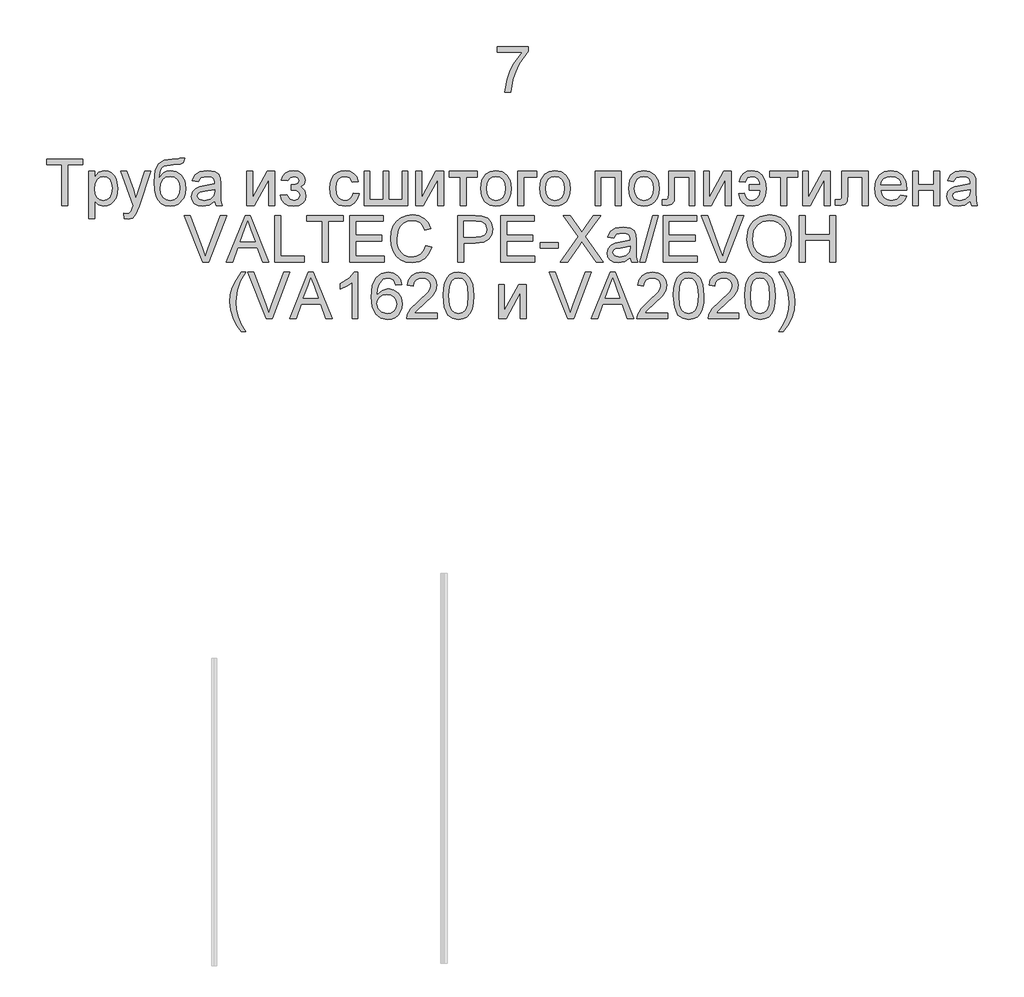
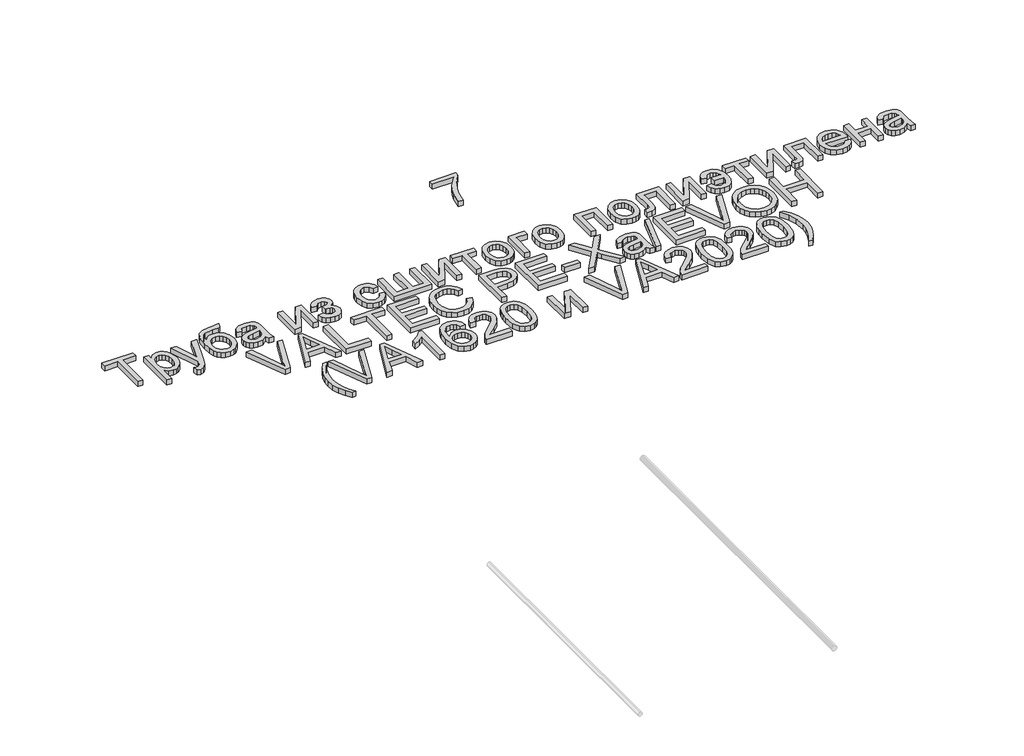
# One storey, part 2 of 2: 1 proxy.
"""IFC4 building model written with IfcOpenShell, lengths in millimetres."""

from ifc_helpers import new_model, si_unit, origin, origin_with_axes, place, context, project, spatial, polyline, outline, extrude, element, save

model = new_model("IFC4")

# Units and contexts
model_context = context("Model", 3, world=origin())
ifc_project = project(units=[si_unit("LENGTHUNIT", "METRE", prefix="MILLI")], contexts=[model_context])

# Site, building, storey
site = spatial("IfcSite", under=ifc_project)
building = spatial("IfcBuilding", under=site)
storey = spatial("IfcBuildingStorey", under=building, Name="Этаж 01", Elevation=0.0)

# Proxy
placement = place(None, origin())
element("IfcBuildingElementProxy", 1, Name="-", ObjectType="-", at=placement, inside=storey, context=model_context, shape_type="SweptSolid", body=[
    extrude(outline(polyline([(860.7139769, 3019.4915271), (860.7139769, 3038.3270853), (959.6006572, 3038.3270853), (959.6006572, 3023.0967707), (931.5496551, 2982.5745689), (919.2394038, 2957.1125363), (910.0837407, 2930.9423309), (903.0939828, 2889.9970648), (884.2584246, 2889.9970648), (891.7448232, 2932.4874353), (900.459028, 2956.9469894), (912.2910326, 2980.5144297), (940.7650991, 3019.4915271), (860.7139769, 3019.4915271)])), origin_with_axes(), (0.0, 0.0, 1.0), 20.0),
    extrude(outline(polyline([(-547.243995, 2524.0726113), (-547.243995, 2655.9215184), (-596.6873352, 2655.9215184), (-596.6873352, 2674.7570765), (-478.9650967, 2674.7570765), (-478.9650967, 2655.9215184), (-528.4084369, 2655.9215184), (-528.4084369, 2524.0726113), (-547.243995, 2524.0726113)])), origin_with_axes(), (0.0, 0.0, 1.0), 20.0),
    extrude(outline(polyline([(-460.1295386, 2481.6926054), (-460.1295386, 2634.7315154), (-441.2939804, 2634.7315154), (-441.2939804, 2616.2638393), (-428.2709578, 2631.88043), (-410.6861984, 2637.0859602), (-397.9482843, 2635.2649443), (-386.8106569, 2629.8018967), (-377.7423657, 2621.0279111), (-371.2124603, 2609.2740814), (-365.9517478, 2580.248192), (-367.4370714, 2564.1395591), (-371.893042, 2549.7323805), (-379.1771055, 2537.7578215), (-389.1467076, 2528.9470477), (-400.7579831, 2523.5253868), (-412.9670668, 2521.7181665), (-429.3562097, 2526.5558148), (-441.2939804, 2538.7878911), (-441.2939804, 2481.6926054), (-460.1295386, 2481.6926054)]), holes=[polyline([(-441.2939804, 2578.5191466), (-439.2568339, 2561.633363), (-433.1453942, 2549.824351), (-424.1276868, 2542.8713812), (-413.371737, 2540.5537247), (-402.4410432, 2542.9541547), (-393.1934095, 2550.1554447), (-386.8888318, 2562.3967181), (-384.787306, 2579.9170982), (-386.8382481, 2596.7109112), (-392.9910744, 2608.6854702), (-401.9949863, 2615.8591691), (-412.5991848, 2618.2504021), (-423.24477, 2615.7074178), (-432.5935712, 2608.0784649), (-439.1188781, 2595.6026667), (-441.2939804, 2578.5191466)])]), origin_with_axes(), (0.0, 0.0, 1.0), 20.0),
    extrude(outline(polyline([(-344.7617449, 2481.6926054), (-347.1161896, 2499.8291878), (-337.5512578, 2498.1737188), (-328.6117253, 2500.2522521), (-323.1302836, 2506.0463935), (-317.9799356, 2519.9155447), (-316.5084076, 2524.4772815), (-356.5339687, 2634.7315154), (-336.668341, 2634.7315154), (-315.4415499, 2573.2952222), (-308.0471218, 2548.720705), (-300.6526937, 2570.4257427), (-278.8372913, 2634.7315154), (-259.1188164, 2634.7315154), (-297.6360613, 2521.4238609), (-307.6424516, 2496.8493436), (-318.5685468, 2483.5688036), (-333.2470384, 2479.3381607), (-344.7617449, 2481.6926054)])), origin_with_axes(), (0.0, 0.0, 1.0), 20.0),
    extrude(outline(polyline([(-165.8239424, 2677.1115213), (-149.342829, 2677.1115213), (-154.1988714, 2662.4146356), (-163.8005914, 2657.0987407), (-186.8667925, 2655.9215184), (-217.934427, 2651.5805108), (-225.0621407, 2645.9335222), (-229.8538037, 2637.6745714), (-233.8821115, 2613.0632659), (-217.566545, 2631.0894837), (-207.6475267, 2635.5868411), (-196.542089, 2637.0859602), (-176.9431757, 2633.273783), (-161.0414765, 2621.8372515), (-150.5016573, 2603.8984057), (-146.9883843, 2580.5792857), (-148.7312252, 2562.5990532), (-153.9597481, 2548.168882), (-170.4960438, 2528.6159539), (-181.790021, 2523.4426134), (-196.542089, 2521.7181665), (-213.5428357, 2523.9392541), (-226.2853483, 2530.6025167), (-235.6617407, 2540.7284686), (-242.5641266, 2553.337624), (-246.8131637, 2572.3249335), (-248.2295093, 2601.5853477), (-244.6564555, 2637.7251552), (-233.9372938, 2659.7658852), (-215.80531, 2671.0092787), (-189.9937895, 2674.7570765), (-169.0245158, 2675.1801408), (-165.8239424, 2677.1115213)]), holes=[polyline([(-165.8239424, 2581.1678969), (-167.8656875, 2595.9889428), (-173.9909227, 2607.8577357), (-183.8317661, 2615.6522355), (-197.0203356, 2618.2504021), (-210.7699252, 2615.5050827), (-220.9694535, 2607.2691245), (-227.2878268, 2594.4438384), (-229.3939512, 2577.9305354), (-227.0670976, 2561.9230701), (-220.0865367, 2550.1738388), (-209.6938703, 2542.9587532), (-197.1307002, 2540.5537247), (-184.5031507, 2543.3358323), (-174.5059575, 2551.682155), (-167.9944462, 2564.6178057), (-165.8239424, 2581.1678969)])]), origin_with_axes(), (0.0, 0.0, 1.0), 20.0),
    extrude(outline(polyline([(-52.8105935, 2538.1992799), (-71.0759346, 2525.4337747), (-91.254262, 2521.7181665), (-106.9950129, 2523.9530496), (-118.6062883, 2530.657699), (-125.7661917, 2540.8388332), (-128.1528261, 2553.5031709), (-124.5475826, 2568.4023917), (-115.0746212, 2579.2181224), (-101.8860517, 2585.3985399), (-85.5888793, 2588.2312312), (-52.9209581, 2594.7059544), (-52.8105935, 2598.8998091), (-54.1073775, 2607.3059127), (-57.9977296, 2612.8057485), (-66.6981388, 2616.8892387), (-78.8198506, 2618.2504021), (-97.8761379, 2614.6267644), (-106.9628232, 2601.7692887), (-125.7983813, 2604.1237334), (-117.6497952, 2622.5178332), (-101.2422582, 2633.2967757), (-76.3918294, 2637.0859602), (-53.5647516, 2633.7382341), (-40.6704877, 2625.3321305), (-34.8947403, 2612.5482311), (-33.9750354, 2596.0671177), (-33.9750354, 2572.6330347), (-33.0185422, 2539.9099312), (-29.2661458, 2524.0726113), (-48.101704, 2524.0726113), (-52.8105935, 2538.1992799)]), holes=[polyline([(-52.8105935, 2575.8703962), (-83.1976463, 2570.0946489), (-99.4028482, 2567.0412283), (-106.742094, 2562.0748214), (-109.317268, 2554.8275461), (-103.7070675, 2544.6372148), (-87.2443483, 2540.5537247), (-68.1880609, 2545.0602791), (-55.9008023, 2555.9679803), (-52.9209581, 2570.5361073), (-52.8105935, 2575.8703962)])]), origin_with_axes(), (0.0, 0.0, 1.0), 20.0),
    extrude(outline(polyline([(50.7849763, 2634.7315154), (69.6205345, 2634.7315154), (69.6205345, 2550.3393857), (115.9000895, 2634.7315154), (140.2538776, 2634.7315154), (140.2538776, 2524.0726113), (121.4183194, 2524.0726113), (121.4183194, 2607.9497062), (75.43307, 2524.0726113), (50.7849763, 2524.0726113), (50.7849763, 2634.7315154)])), origin_with_axes(), (0.0, 0.0, 1.0), 20.0),
    extrude(outline(polyline([(194.4061073, 2573.5159514), (194.4061073, 2592.3515096), (209.2685399, 2593.0872736), (216.7733326, 2597.0052168), (220.3049997, 2605.1905912), (215.5777161, 2614.7003408), (203.3824279, 2618.2504021), (190.7824696, 2614.7187349), (182.6338834, 2604.1237334), (161.4438805, 2606.4781782), (167.063278, 2619.8690828), (175.6073373, 2629.4340147), (187.0760585, 2635.1729738), (201.4694416, 2637.0859602), (217.214791, 2634.7545081), (229.1341676, 2627.7601516), (236.6389603, 2617.5284336), (239.1405579, 2605.4848968), (235.5812996, 2593.7862494), (224.9035247, 2584.7363523), (237.3563302, 2573.0009166), (241.4950026, 2556.1151331), (238.8692449, 2542.2505804), (230.9919717, 2531.2647043), (218.3966119, 2524.104801), (201.6165944, 2521.7181665), (185.2044589, 2523.9254585), (172.6458872, 2530.5473344), (163.9408795, 2541.5837943), (159.0894357, 2557.0348381), (180.2794386, 2559.3892828), (188.7775127, 2545.4833434), (203.4192161, 2540.5537247), (217.1780028, 2545.2810083), (222.6594445, 2557.3659319), (219.256536, 2567.2619575), (212.0092607, 2572.5594583), (198.0849272, 2573.626316), (194.4061073, 2573.5159514)])), origin_with_axes(), (0.0, 0.0, 1.0), 20.0),
    extrude(outline(polyline([(394.5339126, 2564.0981724), (413.3694708, 2561.7437276), (408.1179553, 2544.9913012), (398.2495208, 2532.3315621), (384.6930693, 2524.3715154), (368.3775028, 2521.7181665), (348.3417296, 2525.4199791), (332.6745551, 2536.5254168), (322.5623988, 2554.5470361), (319.19168, 2578.9973932), (320.6310183, 2595.7590166), (324.9490332, 2610.2857569), (332.2147026, 2622.016594), (342.4970044, 2630.3905079), (354.7980586, 2635.4120971), (368.1199854, 2637.0859602), (384.0354802, 2634.7866977), (396.7595987, 2627.8889103), (405.8876707, 2616.76048), (411.015026, 2601.7692887), (392.1794679, 2599.4148439), (383.4422705, 2613.5231184), (368.2671382, 2618.2504021), (356.0948427, 2615.9235484), (346.4333418, 2608.9429876), (340.1287641, 2596.9316404), (338.0272382, 2579.512428), (340.0827788, 2561.8586907), (346.2494008, 2549.8059569), (355.7361577, 2542.8667827), (367.7521034, 2540.5537247), (377.5055748, 2541.9976615), (385.5024096, 2546.329472), (391.3195437, 2553.6595208), (394.5339126, 2564.0981724)])), origin_with_axes(), (0.0, 0.0, 1.0), 20.0),
    extrude(outline(polyline([(429.8505842, 2634.7315154), (448.6861423, 2634.7315154), (448.6861423, 2542.9081694), (491.0661482, 2542.9081694), (491.0661482, 2634.7315154), (509.9017063, 2634.7315154), (509.9017063, 2542.9081694), (552.2817122, 2542.9081694), (552.2817122, 2634.7315154), (571.1172703, 2634.7315154), (571.1172703, 2524.0726113), (429.8505842, 2524.0726113), (429.8505842, 2634.7315154)])), origin_with_axes(), (0.0, 0.0, 1.0), 20.0),
    extrude(outline(polyline([(597.0161628, 2634.7315154), (615.8517209, 2634.7315154), (615.8517209, 2550.3393857), (662.1312759, 2634.7315154), (686.485064, 2634.7315154), (686.485064, 2524.0726113), (667.6495059, 2524.0726113), (667.6495059, 2607.9497062), (621.6642565, 2524.0726113), (597.0161628, 2524.0726113), (597.0161628, 2634.7315154)])), origin_with_axes(), (0.0, 0.0, 1.0), 20.0),
    extrude(outline(polyline([(705.3206222, 2634.7315154), (794.7895234, 2634.7315154), (794.7895234, 2615.8959573), (759.4728518, 2615.8959573), (759.4728518, 2524.0726113), (740.6372937, 2524.0726113), (740.6372937, 2615.8959573), (705.3206222, 2615.8959573), (705.3206222, 2634.7315154)])), origin_with_axes(), (0.0, 0.0, 1.0), 20.0),
    extrude(outline(polyline([(806.5617472, 2579.4020634), (810.6360403, 2606.0827051), (822.8589196, 2624.8354898), (837.9604755, 2634.0233426), (856.0418756, 2637.0859602), (875.8293284, 2633.3565565), (891.6344586, 2622.1683453), (901.9949353, 2604.4042435), (905.4484275, 2580.9471677), (903.9217173, 2561.9184715), (899.3415864, 2547.433118), (891.8413922, 2536.5851976), (881.5544919, 2528.4688011), (869.3362112, 2523.4058252), (856.0418756, 2521.7181665), (836.0152995, 2525.4337747), (820.2285633, 2536.5805991), (809.9784513, 2554.7171815), (806.5617472, 2579.4020634)]), holes=[polyline([(825.3973054, 2579.4388516), (827.5770062, 2562.3921196), (834.1161087, 2550.2474152), (843.956952, 2542.9771473), (856.0418756, 2540.5537247), (868.0716168, 2542.9909429), (877.8940661, 2550.3025975), (884.4331686, 2562.6082503), (886.6128694, 2580.0274628), (884.419373, 2596.577554), (877.8388838, 2608.5567115), (868.0026389, 2615.8269794), (856.0418756, 2618.2504021), (843.956952, 2615.8361765), (834.1161087, 2608.5934997), (827.5770062, 2596.4763865), (825.3973054, 2579.4388516)])]), origin_with_axes(), (0.0, 0.0, 1.0), 20.0),
    extrude(outline(polyline([(926.6384305, 2634.7315154), (987.8539945, 2634.7315154), (987.8539945, 2615.8959573), (945.4739886, 2615.8959573), (945.4739886, 2524.0726113), (926.6384305, 2524.0726113), (926.6384305, 2634.7315154)])), origin_with_axes(), (0.0, 0.0, 1.0), 20.0),
    extrude(outline(polyline([(997.2717735, 2579.4020634), (1001.3460666, 2606.0827051), (1013.5689459, 2624.8354898), (1028.6705018, 2634.0233426), (1046.7519019, 2637.0859602), (1066.5393547, 2633.3565565), (1082.3444849, 2622.1683453), (1092.7049616, 2604.4042435), (1096.1584538, 2580.9471677), (1094.6317436, 2561.9184715), (1090.0516127, 2547.433118), (1082.5514185, 2536.5851976), (1072.2645182, 2528.4688011), (1060.0462375, 2523.4058252), (1046.7519019, 2521.7181665), (1026.7253258, 2525.4337747), (1010.9385896, 2536.5805991), (1000.6884776, 2554.7171815), (997.2717735, 2579.4020634)]), holes=[polyline([(1016.1073317, 2579.4388516), (1018.2870325, 2562.3921196), (1024.826135, 2550.2474152), (1034.6669783, 2542.9771473), (1046.7519019, 2540.5537247), (1058.7816431, 2542.9909429), (1068.6040924, 2550.3025975), (1075.1431949, 2562.6082503), (1077.3228957, 2580.0274628), (1075.1293993, 2596.577554), (1068.5489101, 2608.5567115), (1058.7126652, 2615.8269794), (1046.7519019, 2618.2504021), (1034.6669783, 2615.8361765), (1024.826135, 2608.5934997), (1018.2870325, 2596.4763865), (1016.1073317, 2579.4388516)])]), origin_with_axes(), (0.0, 0.0, 1.0), 20.0),
    extrude(outline(polyline([(1176.209576, 2634.7315154), (1260.9695877, 2634.7315154), (1260.9695877, 2524.0726113), (1242.1340295, 2524.0726113), (1242.1340295, 2615.8959573), (1195.0451341, 2615.8959573), (1195.0451341, 2524.0726113), (1176.209576, 2524.0726113), (1176.209576, 2634.7315154)])), origin_with_axes(), (0.0, 0.0, 1.0), 20.0),
    extrude(outline(polyline([(1284.5140354, 2579.4020634), (1288.5883285, 2606.0827051), (1300.8112077, 2624.8354898), (1315.9127637, 2634.0233426), (1333.9941637, 2637.0859602), (1353.7816165, 2633.3565565), (1369.5867467, 2622.1683453), (1379.9472234, 2604.4042435), (1383.4007157, 2580.9471677), (1381.8740054, 2561.9184715), (1377.2938745, 2547.433118), (1369.7936804, 2536.5851976), (1359.5067801, 2528.4688011), (1347.2884993, 2523.4058252), (1333.9941637, 2521.7181665), (1313.9675876, 2525.4337747), (1298.1808515, 2536.5805991), (1287.9307394, 2554.7171815), (1284.5140354, 2579.4020634)]), holes=[polyline([(1303.3495935, 2579.4388516), (1305.5292943, 2562.3921196), (1312.0683968, 2550.2474152), (1321.9092402, 2542.9771473), (1333.9941637, 2540.5537247), (1346.023905, 2542.9909429), (1355.8463542, 2550.3025975), (1362.3854567, 2562.6082503), (1364.5651575, 2580.0274628), (1362.3716611, 2596.577554), (1355.7911719, 2608.5567115), (1345.9549271, 2615.8269794), (1333.9941637, 2618.2504021), (1321.9092402, 2615.8361765), (1312.0683968, 2608.5934997), (1305.5292943, 2596.4763865), (1303.3495935, 2579.4388516)])]), origin_with_axes(), (0.0, 0.0, 1.0), 20.0),
    extrude(outline(polyline([(1414.0084977, 2634.7315154), (1498.7685094, 2634.7315154), (1498.7685094, 2524.1829759), (1479.9329512, 2524.1829759), (1479.9329512, 2615.8959573), (1432.8440558, 2615.8959573), (1432.8440558, 2563.104891), (1431.5748629, 2538.7511029), (1424.6034991, 2528.4688011), (1408.1223857, 2524.0726113), (1392.8184947, 2525.0291045), (1392.8184947, 2542.9081694), (1401.2429924, 2542.9081694), (1409.7594606, 2544.0669977), (1413.1623691, 2547.7458177), (1414.0084977, 2564.1717488), (1414.0084977, 2634.7315154)])), origin_with_axes(), (0.0, 0.0, 1.0), 20.0),
    extrude(outline(polyline([(1527.0218466, 2634.7315154), (1545.8574047, 2634.7315154), (1545.8574047, 2550.3393857), (1592.1369597, 2634.7315154), (1616.4907478, 2634.7315154), (1616.4907478, 2524.0726113), (1597.6551897, 2524.0726113), (1597.6551897, 2607.9497062), (1551.6699403, 2524.0726113), (1527.0218466, 2524.0726113), (1527.0218466, 2634.7315154)])), origin_with_axes(), (0.0, 0.0, 1.0), 20.0),
    extrude(outline(polyline([(1675.351867, 2592.3515096), (1710.6685386, 2592.3515096), (1707.7668693, 2602.7855627), (1702.1520704, 2611.058309), (1694.1920237, 2616.4523788), (1684.2546113, 2618.2504021), (1668.9875085, 2613.5415125), (1661.2251984, 2599.4148439), (1642.3896403, 2601.7692887), (1646.7812316, 2615.9097529), (1655.3206924, 2627.2083286), (1667.5757614, 2634.6165523), (1683.1141771, 2637.0859602), (1702.3406099, 2633.2415934), (1717.0512912, 2621.7084928), (1726.3908953, 2603.4431517), (1729.5040967, 2579.4020634), (1726.9335213, 2555.4713396), (1718.0445726, 2536.6541755), (1703.5178323, 2524.7899812), (1684.0338821, 2521.7181665), (1667.3320395, 2524.472683), (1654.1618641, 2532.7362323), (1644.928026, 2545.497139), (1640.0351955, 2561.7437276), (1658.8707537, 2564.0981724), (1661.8459993, 2553.7974765), (1666.9825516, 2546.4398366), (1674.2804107, 2542.0252527), (1683.7395765, 2540.5537247), (1694.3805632, 2542.6138638), (1702.3911937, 2548.7942814), (1707.8082561, 2559.0949772), (1710.6685386, 2573.5159514), (1675.351867, 2573.5159514), (1675.351867, 2592.3515096)])), origin_with_axes(), (0.0, 0.0, 1.0), 20.0),
    extrude(outline(polyline([(1741.2763206, 2634.7315154), (1830.7452218, 2634.7315154), (1830.7452218, 2615.8959573), (1795.4285503, 2615.8959573), (1795.4285503, 2524.0726113), (1776.5929921, 2524.0726113), (1776.5929921, 2615.8959573), (1741.2763206, 2615.8959573), (1741.2763206, 2634.7315154)])), origin_with_axes(), (0.0, 0.0, 1.0), 20.0),
    extrude(outline(polyline([(1847.2263352, 2634.7315154), (1866.0618933, 2634.7315154), (1866.0618933, 2550.3393857), (1912.3414483, 2634.7315154), (1936.6952364, 2634.7315154), (1936.6952364, 2524.0726113), (1917.8596783, 2524.0726113), (1917.8596783, 2607.9497062), (1871.8744289, 2524.0726113), (1847.2263352, 2524.0726113), (1847.2263352, 2634.7315154)])), origin_with_axes(), (0.0, 0.0, 1.0), 20.0),
    extrude(outline(polyline([(1974.3663527, 2634.7315154), (2059.1263644, 2634.7315154), (2059.1263644, 2524.1829759), (2040.2908063, 2524.1829759), (2040.2908063, 2615.8959573), (1993.2019109, 2615.8959573), (1993.2019109, 2563.104891), (1991.932718, 2538.7511029), (1984.9613542, 2528.4688011), (1968.4802408, 2524.0726113), (1953.1763498, 2525.0291045), (1953.1763498, 2542.9081694), (1961.6008475, 2542.9081694), (1970.1173157, 2544.0669977), (1973.5202241, 2547.7458177), (1974.3663527, 2564.1717488), (1974.3663527, 2634.7315154)])), origin_with_axes(), (0.0, 0.0, 1.0), 20.0),
    extrude(outline(polyline([(2164.8556498, 2557.0348381), (2183.323326, 2554.6803933), (2176.6692604, 2540.7652568), (2166.0512663, 2530.3633934), (2151.708467, 2523.8794732), (2133.8799858, 2521.7181665), (2111.779475, 2525.4475702), (2094.7741297, 2536.6357814), (2083.9308079, 2554.5562331), (2080.3163673, 2578.4823584), (2083.9675961, 2603.2132255), (2094.9212825, 2621.7084928), (2111.6967015, 2633.2415934), (2132.813128, 2637.0859602), (2153.2719655, 2633.2507904), (2169.6197217, 2621.745281), (2180.3388833, 2603.2868019), (2183.9119372, 2578.592723), (2183.8015726, 2573.5159514), (2099.1519255, 2573.5159514), (2102.4122797, 2559.416874), (2109.9860502, 2549.0517988), (2120.916744, 2542.6782432), (2134.2478678, 2540.5537247), (2152.715544, 2544.490062), (2164.8556498, 2557.0348381)]), holes=[polyline([(2099.1519255, 2592.3515096), (2165.076379, 2592.3515096), (2162.5287962, 2602.3027176), (2157.5347981, 2609.4212342), (2146.5535206, 2616.0431101), (2132.7395516, 2618.2504021), (2120.0430243, 2616.489167), (2109.5445918, 2611.2054618), (2102.2467328, 2602.9695037), (2099.1519255, 2592.3515096)])]), origin_with_axes(), (0.0, 0.0, 1.0), 20.0),
    extrude(outline(polyline([(2202.7474953, 2634.7315154), (2221.5830535, 2634.7315154), (2221.5830535, 2592.3515096), (2271.0263936, 2592.3515096), (2271.0263936, 2634.7315154), (2289.8619518, 2634.7315154), (2289.8619518, 2524.0726113), (2271.0263936, 2524.0726113), (2271.0263936, 2573.5159514), (2221.5830535, 2573.5159514), (2221.5830535, 2524.0726113), (2202.7474953, 2524.0726113), (2202.7474953, 2634.7315154)])), origin_with_axes(), (0.0, 0.0, 1.0), 20.0),
    extrude(outline(polyline([(2388.7486321, 2538.1992799), (2370.483291, 2525.4337747), (2350.3049636, 2521.7181665), (2334.5642127, 2523.9530496), (2322.9529372, 2530.657699), (2315.7930339, 2540.8388332), (2313.4063995, 2553.5031709), (2317.011643, 2568.4023917), (2326.4846044, 2579.2181224), (2339.6731739, 2585.3985399), (2355.9703463, 2588.2312312), (2388.6382675, 2594.7059544), (2388.7486321, 2598.8998091), (2387.4518481, 2607.3059127), (2383.561496, 2612.8057485), (2374.8610868, 2616.8892387), (2362.739375, 2618.2504021), (2343.6830877, 2614.6267644), (2334.5964024, 2601.7692887), (2315.7608442, 2604.1237334), (2323.9094304, 2622.5178332), (2340.3169674, 2633.2967757), (2365.1673962, 2637.0859602), (2387.994474, 2633.7382341), (2400.8887379, 2625.3321305), (2406.6644853, 2612.5482311), (2407.5841902, 2596.0671177), (2407.5841902, 2572.6330347), (2408.5406834, 2539.9099312), (2412.2930798, 2524.0726113), (2393.4575216, 2524.0726113), (2388.7486321, 2538.1992799)]), holes=[polyline([(2388.7486321, 2575.8703962), (2358.3615793, 2570.0946489), (2342.1563774, 2567.0412283), (2334.8171316, 2562.0748214), (2332.2419576, 2554.8275461), (2337.8521581, 2544.6372148), (2354.3148773, 2540.5537247), (2373.3711647, 2545.0602791), (2385.6584233, 2555.9679803), (2388.6382675, 2570.5361073), (2388.7486321, 2575.8703962)])]), origin_with_axes(), (0.0, 0.0, 1.0), 20.0),
    extrude(outline(polyline([(-15.0291126, 2341.1103845), (45.1195936, 2491.7948497), (61.1592486, 2491.7948497), (121.3079548, 2341.1103845), (101.4055389, 2341.1103845), (84.1518733, 2388.1992799), (22.0901807, 2388.1992799), (4.8733033, 2341.1103845), (-15.0291126, 2341.1103845)]), holes=[polyline([(29.0063622, 2407.0348381), (77.27248, 2407.0348381), (63.6976344, 2444.080555), (53.1394211, 2472.9592916), (43.7584302, 2447.3179165), (29.0063622, 2407.0348381)])]), origin_with_axes(), (0.0, 0.0, 1.0), 20.0),
    extrude(outline(polyline([(-91.8796614, 2341.1103845), (-151.8444266, 2491.7948497), (-131.6844933, 2491.7948497), (-91.5485676, 2383.232873), (-83.4183755, 2358.7687203), (-75.398548, 2383.232873), (-35.1522577, 2491.7948497), (-14.9923244, 2491.7948497), (-72.4187038, 2341.1103845), (-91.8796614, 2341.1103845)])), origin_with_axes(), (0.0, 0.0, 1.0), 20.0),
    extrude(outline(polyline([(141.4310999, 2341.1103845), (141.4310999, 2491.7948497), (160.2666581, 2491.7948497), (160.2666581, 2359.9459427), (235.6088907, 2359.9459427), (235.6088907, 2341.1103845), (141.4310999, 2341.1103845)])), origin_with_axes(), (0.0, 0.0, 1.0), 20.0),
    extrude(outline(polyline([(294.4700099, 2341.1103845), (294.4700099, 2472.9592916), (245.0266698, 2472.9592916), (245.0266698, 2491.7948497), (362.7489082, 2491.7948497), (362.7489082, 2472.9592916), (313.3055681, 2472.9592916), (313.3055681, 2341.1103845), (294.4700099, 2341.1103845)])), origin_with_axes(), (0.0, 0.0, 1.0), 20.0),
    extrude(outline(polyline([(383.9389112, 2341.1103845), (383.9389112, 2491.7948497), (492.2433706, 2491.7948497), (492.2433706, 2472.9592916), (402.7744693, 2472.9592916), (402.7744693, 2428.224841), (487.534481, 2428.224841), (487.534481, 2409.3892828), (402.7744693, 2409.3892828), (402.7744693, 2359.9459427), (494.5978153, 2359.9459427), (494.5978153, 2341.1103845), (383.9389112, 2341.1103845)])), origin_with_axes(), (0.0, 0.0, 1.0), 20.0),
    extrude(outline(polyline([(628.8011672, 2394.674003), (647.6367253, 2389.8179607), (638.9455132, 2367.8692011), (625.3062882, 2351.8341447), (607.390435, 2342.025491), (585.8693383, 2338.7559398), (564.0217463, 2341.2299462), (546.6715117, 2348.6519654), (533.3725776, 2360.7644801), (523.678887, 2377.3099728), (517.7605854, 2396.7617333), (515.7878182, 2417.5930513), (518.0181028, 2439.5648035), (524.7089566, 2458.5383174), (535.5108917, 2473.9111863), (550.0744202, 2485.0810033), (567.3464799, 2491.8822217), (586.2740085, 2494.1492945), (606.925984, 2491.2154356), (624.0003071, 2482.4138589), (636.9635489, 2468.2871903), (645.2822805, 2449.3780557), (626.4467224, 2444.8898954), (619.916817, 2458.6256894), (610.9956786, 2468.048067), (599.5729426, 2473.497319), (585.5382445, 2475.3137364), (569.3606338, 2473.2995824), (556.0708967, 2467.2571207), (545.9863315, 2457.8209475), (539.4242364, 2445.6256594), (534.6233764, 2417.6298395), (536.0443206, 2400.2290211), (540.3071532, 2385.1826475), (547.5728226, 2373.0655343), (558.0022772, 2364.4524971), (570.5056665, 2359.3067477), (583.9931401, 2357.5914979), (599.7154969, 2359.9275486), (612.8166945, 2366.9357006), (622.7081216, 2378.5423775), (628.8011672, 2394.674003)])), origin_with_axes(), (0.0, 0.0, 1.0), 20.0),
    extrude(outline(polyline([(732.396737, 2341.1103845), (732.396737, 2491.7948497), (788.2412239, 2491.7948497), (810.755602, 2490.36011), (829.0577312, 2483.3151698), (840.9219256, 2468.7470427), (845.4100859, 2448.2008333), (842.379658, 2430.44133), (833.2883742, 2415.6432767), (816.2876275, 2405.6552806), (789.5288109, 2402.3259485), (751.2322952, 2402.3259485), (751.2322952, 2341.1103845), (732.396737, 2341.1103845)]), holes=[polyline([(751.2322952, 2421.1615067), (790.6324568, 2421.1615067), (807.3342994, 2422.890552), (818.3707593, 2428.0776882), (824.5235856, 2436.4010183), (826.5745278, 2447.5386457), (821.7368795, 2463.1368423), (809.0265566, 2471.6717046), (790.1909984, 2472.9592916), (751.2322952, 2472.9592916), (751.2322952, 2421.1615067)])]), origin_with_axes(), (0.0, 0.0, 1.0), 20.0),
    extrude(outline(polyline([(871.3089784, 2341.1103845), (871.3089784, 2491.7948497), (979.6134378, 2491.7948497), (979.6134378, 2472.9592916), (890.1445365, 2472.9592916), (890.1445365, 2428.224841), (974.9045482, 2428.224841), (974.9045482, 2409.3892828), (890.1445365, 2409.3892828), (890.1445365, 2359.9459427), (981.9678825, 2359.9459427), (981.9678825, 2341.1103845), (871.3089784, 2341.1103845)])), origin_with_axes(), (0.0, 0.0, 1.0), 20.0),
    extrude(outline(polyline([(998.4489959, 2385.8448351), (998.4489959, 2404.6803933), (1057.3101151, 2404.6803933), (1057.3101151, 2385.8448351), (998.4489959, 2385.8448351)])), origin_with_axes(), (0.0, 0.0, 1.0), 20.0),
    extrude(outline(polyline([(1064.3734494, 2341.1103845), (1122.4620165, 2423.2216458), (1073.7912285, 2491.7948497), (1096.379183, 2491.7948497), (1123.7863917, 2453.2040285), (1133.0202297, 2438.1576548), (1143.8359604, 2453.4615458), (1170.9488635, 2491.7948497), (1193.8679118, 2491.7948497), (1145.1971238, 2423.0009166), (1203.2856908, 2341.1103845), (1180.6977363, 2341.1103845), (1141.9965504, 2395.7040726), (1133.9399347, 2407.0348381), (1125.0739787, 2394.6004266), (1087.2924977, 2341.1103845), (1064.3734494, 2341.1103845)])), origin_with_axes(), (0.0, 0.0, 1.0), 20.0),
    extrude(outline(polyline([(1290.4001473, 2355.2370531), (1272.1348062, 2342.4715479), (1251.9564788, 2338.7559398), (1236.2157279, 2340.9908229), (1224.6044524, 2347.6954722), (1217.4445491, 2357.8766065), (1215.0579147, 2370.5409441), (1218.6631582, 2385.4401649), (1228.1361196, 2396.2558956), (1241.3246891, 2402.4363131), (1257.6218615, 2405.2690045), (1290.2897827, 2411.7437276), (1290.4001473, 2415.9375823), (1289.1033633, 2424.3436859), (1285.2130112, 2429.8435218), (1276.512602, 2433.9270119), (1264.3908902, 2435.2881753), (1245.3346029, 2431.6645376), (1236.2479176, 2418.8070619), (1217.4123594, 2421.1615067), (1225.5609456, 2439.5556064), (1241.9684826, 2450.3345489), (1266.8189114, 2454.1237334), (1289.6459892, 2450.7760073), (1302.5402531, 2442.3699037), (1308.3160005, 2429.5860044), (1309.2357054, 2413.104891), (1309.2357054, 2389.6708079), (1310.1921986, 2356.9477044), (1313.944595, 2341.1103845), (1295.1090368, 2341.1103845), (1290.4001473, 2355.2370531)]), holes=[polyline([(1290.4001473, 2392.9081694), (1260.0130945, 2387.1324221), (1243.8078926, 2384.0790016), (1236.4686468, 2379.1125946), (1233.8934728, 2371.8653193), (1239.5036733, 2361.6749881), (1255.9663925, 2357.5914979), (1275.0226799, 2362.0980523), (1287.3099385, 2373.0057535), (1290.2897827, 2387.5738805), (1290.4001473, 2392.9081694)])]), origin_with_axes(), (0.0, 0.0, 1.0), 20.0),
    extrude(outline(polyline([(1321.0079293, 2341.1103845), (1363.3879351, 2491.7948497), (1380.3840833, 2491.7948497), (1338.0040775, 2341.1103845), (1321.0079293, 2341.1103845)])), origin_with_axes(), (0.0, 0.0, 1.0), 20.0),
    extrude(outline(polyline([(1396.3501619, 2341.1103845), (1396.3501619, 2491.7948497), (1504.6546213, 2491.7948497), (1504.6546213, 2472.9592916), (1415.18572, 2472.9592916), (1415.18572, 2428.224841), (1499.9457317, 2428.224841), (1499.9457317, 2409.3892828), (1415.18572, 2409.3892828), (1415.18572, 2359.9459427), (1507.009066, 2359.9459427), (1507.009066, 2341.1103845), (1396.3501619, 2341.1103845)])), origin_with_axes(), (0.0, 0.0, 1.0), 20.0),
    extrude(outline(polyline([(1579.7761247, 2341.1103845), (1519.8113595, 2491.7948497), (1539.9712928, 2491.7948497), (1580.1072185, 2383.232873), (1588.2374106, 2358.7687203), (1596.2572381, 2383.232873), (1636.5035283, 2491.7948497), (1656.6634617, 2491.7948497), (1599.2370822, 2341.1103845), (1579.7761247, 2341.1103845)])), origin_with_axes(), (0.0, 0.0, 1.0), 20.0),
    extrude(outline(polyline([(1667.1113103, 2414.4660544), (1672.1328996, 2447.7869661), (1678.4098861, 2461.4054977), (1687.1976673, 2472.9960798), (1710.199489, 2488.8609908), (1739.0322404, 2494.1492945), (1758.7967006, 2491.666091), (1776.5194157, 2484.2164806), (1791.2346955, 2472.3246952), (1801.9768498, 2456.5149664), (1808.5435434, 2437.5506496), (1810.7324413, 2416.1950997), (1808.4285803, 2394.5544414), (1801.5169973, 2375.3234101), (1790.3793699, 2359.4860902), (1775.3973756, 2348.026566), (1757.8264118, 2341.0735963), (1738.9218758, 2338.7559398), (1718.853913, 2341.3173181), (1701.0300303, 2349.0014533), (1686.3515387, 2361.113968), (1675.719749, 2376.960485), (1669.26342, 2395.1936363), (1667.1113103, 2414.4660544)]), holes=[polyline([(1685.9468685, 2414.2821134), (1689.7130604, 2390.7100745), (1701.0116362, 2372.7482361), (1717.9939888, 2361.3806825), (1738.8115112, 2357.5914979), (1759.9325363, 2361.4174707), (1776.94248, 2372.8953889), (1788.1582823, 2391.4090503), (1791.8968831, 2416.3422525), (1790.2965964, 2433.016504), (1785.4957364, 2447.4282811), (1777.6184632, 2459.2143005), (1766.7889369, 2468.0112788), (1753.7245276, 2473.488122), (1739.142605, 2475.3137364), (1718.8815041, 2471.7958648), (1701.6554297, 2461.24225), (1689.8740088, 2442.4664727), (1685.9468685, 2414.2821134)])]), origin_with_axes(), (0.0, 0.0, 1.0), 20.0),
    extrude(outline(polyline([(1836.6313337, 2341.1103845), (1836.6313337, 2491.7948497), (1855.4668919, 2491.7948497), (1855.4668919, 2430.5792857), (1935.518014, 2430.5792857), (1935.518014, 2491.7948497), (1954.3535722, 2491.7948497), (1954.3535722, 2341.1103845), (1935.518014, 2341.1103845), (1935.518014, 2411.7437276), (1855.4668919, 2411.7437276), (1855.4668919, 2341.1103845), (1836.6313337, 2341.1103845)])), origin_with_axes(), (0.0, 0.0, 1.0), 20.0),
    extrude(outline(polyline([(33.1266406, 2115.7681519), (18.5309224, 2136.249982), (6.3816195, 2159.9507795), (-1.8129519, 2185.7209133), (-4.5444757, 2212.410752), (-2.5027307, 2235.817244), (3.6225046, 2258.2120604), (15.7810045, 2283.577524), (33.1266406, 2308.832623), (47.2533092, 2308.832623), (29.6317616, 2278.9973932), (19.0367602, 2250.0818683), (14.2910824, 2212.3003874), (16.3512216, 2188.153533), (22.5316391, 2164.0158756), (32.832335, 2139.8874152), (47.2533092, 2115.7681519), (33.1266406, 2115.7681519)])), origin_with_axes(), (0.0, 0.0, 1.0), 20.0),
    extrude(outline(polyline([(189.8075823, 2158.1481578), (249.9562885, 2308.832623), (265.9959435, 2308.832623), (326.1446497, 2158.1481578), (306.2422338, 2158.1481578), (288.9885682, 2205.2370531), (226.9268756, 2205.2370531), (209.7099983, 2158.1481578), (189.8075823, 2158.1481578)]), holes=[polyline([(233.8430571, 2224.0726113), (282.1091749, 2224.0726113), (268.5343293, 2261.1183282), (257.976116, 2289.9970648), (248.5951251, 2264.3556898), (233.8430571, 2224.0726113)])]), origin_with_axes(), (0.0, 0.0, 1.0), 20.0),
    extrude(outline(polyline([(112.9570335, 2158.1481578), (52.9922683, 2308.832623), (73.1522016, 2308.832623), (113.2881273, 2200.2706462), (121.4183194, 2175.8064935), (129.4381469, 2200.2706462), (169.6844372, 2308.832623), (189.8443705, 2308.832623), (132.4179911, 2158.1481578), (112.9570335, 2158.1481578)])), origin_with_axes(), (0.0, 0.0, 1.0), 20.0),
    extrude(outline(polyline([(409.8378036, 2158.1481578), (391.0022455, 2158.1481578), (391.0022455, 2275.5760906), (373.1599687, 2262.8657677), (353.3311292, 2253.3560181), (353.3311292, 2271.1615067), (380.9406729, 2288.7830542), (397.6976978, 2308.832623), (409.8378036, 2308.832623), (409.8378036, 2158.1481578)])), origin_with_axes(), (0.0, 0.0, 1.0), 20.0),
    extrude(outline(polyline([(551.1044898, 2268.8070619), (532.2689316, 2266.4526171), (525.1320209, 2282.1611783), (516.5879616, 2288.0380932), (506.2596746, 2289.9970648), (489.2635264, 2285.4353281), (476.4060507, 2268.3104212), (472.501903, 2254.2803216), (471.0533676, 2234.7411891), (487.6632397, 2249.7691687), (508.2462373, 2254.6803933), (525.6470557, 2251.3234701), (540.2519709, 2241.2527005), (550.1571936, 2225.866036), (553.4589345, 2206.5614283), (551.9046331, 2193.0739547), (547.2417288, 2180.5705654), (539.8564978, 2169.9663668), (530.1352161, 2162.1764656), (518.5193421, 2157.3894011), (505.4503342, 2155.793713), (484.0809888, 2160.0243559), (467.061848, 2172.7162848), (455.9288191, 2195.1202983), (452.2178095, 2228.4871952), (456.3380878, 2266.0019617), (468.6989229, 2291.6525338), (485.5755094, 2304.5376007), (507.436897, 2308.832623), (523.9639956, 2306.1746756), (537.1985504, 2298.2008333), (546.4691766, 2285.5364956), (551.1044898, 2268.8070619)]), holes=[polyline([(471.0533676, 2206.8557339), (475.4127693, 2190.5401674), (487.0010521, 2178.6943672), (503.9788062, 2174.6292711), (516.4086191, 2176.7353956), (526.1804846, 2183.0537688), (532.5126534, 2192.9865827), (534.6233764, 2205.9360289), (532.5402446, 2218.3658418), (526.2908492, 2227.8434017), (516.3534368, 2233.8444768), (503.206254, 2235.8448351), (490.7948352, 2233.8444768), (480.4159644, 2227.8434017), (473.3940168, 2218.5957681), (471.0533676, 2206.8557339)])]), origin_with_axes(), (0.0, 0.0, 1.0), 20.0),
    extrude(outline(polyline([(666.4722835, 2176.9837159), (666.4722835, 2158.1481578), (567.5856032, 2158.1481578), (569.6089541, 2171.1343922), (581.0500842, 2191.1287786), (604.6313201, 2212.962575), (637.1520885, 2244.3429092), (643.2497325, 2255.1586399), (645.2822805, 2265.6800649), (643.3646956, 2275.1116396), (637.6119409, 2282.9521246), (628.7689775, 2288.2358298), (617.5807663, 2289.9970648), (605.8315351, 2288.2772165), (596.7034631, 2283.1176715), (590.8127526, 2274.9231001), (588.7756061, 2264.0981724), (569.9400479, 2266.4526171), (574.5063832, 2284.6719729), (584.3794162, 2297.9801041), (599.0441123, 2306.1194933), (617.9854365, 2308.832623), (637.0647165, 2305.8159906), (651.7018214, 2296.7660935), (661.0138344, 2283.2464302), (664.1178387, 2266.8204991), (660.7701125, 2248.9598283), (649.6416822, 2230.4921521), (622.6575378, 2204.6852301), (600.9892883, 2186.5670419), (592.4912142, 2176.9837159), (666.4722835, 2176.9837159)])), origin_with_axes(), (0.0, 0.0, 1.0), 20.0),
    extrude(outline(polyline([(685.3078416, 2232.2763798), (686.6919976, 2256.3956431), (690.8444656, 2275.6312729), (697.723859, 2290.2775748), (707.2887908, 2300.6288545), (719.6082391, 2306.7816809), (734.7511818, 2308.832623), (756.7505251, 2303.9765806), (771.9440515, 2289.9786707), (780.7732194, 2267.6850218), (784.1945219, 2232.2763798), (782.8241615, 2208.2950722), (778.7130802, 2189.1054276), (771.8750736, 2174.4453301), (762.3239373, 2164.0526638), (749.9768978, 2157.8584507), (734.7511818, 2155.793713), (715.1798596, 2159.3805624), (700.317427, 2170.1411108), (689.060238, 2195.626136), (685.3078416, 2232.2763798)]), holes=[polyline([(704.1433998, 2232.313168), (706.3506917, 2202.6848718), (712.9725677, 2185.5369723), (722.8318051, 2177.3561964), (734.7511818, 2174.6292711), (746.6705584, 2177.3653935), (756.5297959, 2185.5737605), (763.1516718, 2202.730857), (765.3589638, 2232.313168), (763.2252482, 2261.2746781), (756.8241015, 2278.5559348), (746.9832581, 2287.1367823), (734.5304526, 2289.9970648), (722.7398346, 2287.4770732), (713.2668733, 2279.9170982), (706.4242681, 2261.5597866), (704.1433998, 2232.313168)])]), origin_with_axes(), (0.0, 0.0, 1.0), 20.0),
    extrude(outline(polyline([(864.2456441, 2268.8070619), (883.0812022, 2268.8070619), (883.0812022, 2184.4149322), (929.3607572, 2268.8070619), (953.7145453, 2268.8070619), (953.7145453, 2158.1481578), (934.8789871, 2158.1481578), (934.8789871, 2242.0252527), (888.8937377, 2158.1481578), (864.2456441, 2158.1481578), (864.2456441, 2268.8070619)])), origin_with_axes(), (0.0, 0.0, 1.0), 20.0),
    extrude(outline(polyline([(1164.5477167, 2158.1481578), (1224.6964229, 2308.832623), (1240.7360779, 2308.832623), (1300.8847841, 2158.1481578), (1280.9823682, 2158.1481578), (1263.7287026, 2205.2370531), (1201.66701, 2205.2370531), (1184.4501327, 2158.1481578), (1164.5477167, 2158.1481578)]), holes=[polyline([(1208.5831916, 2224.0726113), (1256.8493093, 2224.0726113), (1243.2744637, 2261.1183282), (1232.7162504, 2289.9970648), (1223.3352596, 2264.3556898), (1208.5831916, 2224.0726113)])]), origin_with_axes(), (0.0, 0.0, 1.0), 20.0),
    extrude(outline(polyline([(1087.6971679, 2158.1481578), (1027.7324027, 2308.832623), (1047.8923361, 2308.832623), (1088.0282617, 2200.2706462), (1096.1584538, 2175.8064935), (1104.1782813, 2200.2706462), (1144.4245716, 2308.832623), (1164.5845049, 2308.832623), (1107.1581255, 2158.1481578), (1087.6971679, 2158.1481578)])), origin_with_axes(), (0.0, 0.0, 1.0), 20.0),
    extrude(outline(polyline([(1410.4768305, 2176.9837159), (1410.4768305, 2158.1481578), (1311.5901502, 2158.1481578), (1313.6135012, 2171.1343922), (1325.0546312, 2191.1287786), (1348.6358671, 2212.962575), (1381.1566355, 2244.3429092), (1387.2542796, 2255.1586399), (1389.2868276, 2265.6800649), (1387.3692427, 2275.1116396), (1381.616488, 2282.9521246), (1372.7735245, 2288.2358298), (1361.5853134, 2289.9970648), (1349.8360821, 2288.2772165), (1340.7080101, 2283.1176715), (1334.8172997, 2274.9231001), (1332.7801531, 2264.0981724), (1313.944595, 2266.4526171), (1318.5109302, 2284.6719729), (1328.3839633, 2297.9801041), (1343.0486593, 2306.1194933), (1361.9899835, 2308.832623), (1381.0692635, 2305.8159906), (1395.7063684, 2296.7660935), (1405.0183814, 2283.2464302), (1408.1223857, 2266.8204991), (1404.7746596, 2248.9598283), (1393.6462292, 2230.4921521), (1366.6620849, 2204.6852301), (1344.9938354, 2186.5670419), (1336.4957613, 2176.9837159), (1410.4768305, 2176.9837159)])), origin_with_axes(), (0.0, 0.0, 1.0), 20.0),
    extrude(outline(polyline([(1429.3123887, 2232.2763798), (1430.6965447, 2256.3956431), (1434.8490127, 2275.6312729), (1441.728406, 2290.2775748), (1451.2933379, 2300.6288545), (1463.6127862, 2306.7816809), (1478.7557288, 2308.832623), (1500.7550721, 2303.9765806), (1515.9485985, 2289.9786707), (1524.7777664, 2267.6850218), (1528.199069, 2232.2763798), (1526.8287085, 2208.2950722), (1522.7176272, 2189.1054276), (1515.8796207, 2174.4453301), (1506.3284844, 2164.0526638), (1493.9814449, 2157.8584507), (1478.7557288, 2155.793713), (1459.1844067, 2159.3805624), (1444.3219741, 2170.1411108), (1433.064785, 2195.626136), (1429.3123887, 2232.2763798)]), holes=[polyline([(1448.1479468, 2232.313168), (1450.3552388, 2202.6848718), (1456.9771147, 2185.5369723), (1466.8363522, 2177.3561964), (1478.7557288, 2174.6292711), (1490.6751055, 2177.3653935), (1500.5343429, 2185.5737605), (1507.1562188, 2202.730857), (1509.3635108, 2232.313168), (1507.2297952, 2261.2746781), (1500.8286485, 2278.5559348), (1490.9878052, 2287.1367823), (1478.5349996, 2289.9970648), (1466.7443817, 2287.4770732), (1457.2714203, 2279.9170982), (1450.4288152, 2261.5597866), (1448.1479468, 2232.313168)])]), origin_with_axes(), (0.0, 0.0, 1.0), 20.0),
    extrude(outline(polyline([(1641.2124179, 2176.9837159), (1641.2124179, 2158.1481578), (1542.3257376, 2158.1481578), (1544.3490886, 2171.1343922), (1555.7902186, 2191.1287786), (1579.3714545, 2212.962575), (1611.8922229, 2244.3429092), (1617.9898669, 2255.1586399), (1620.022415, 2265.6800649), (1618.1048301, 2275.1116396), (1612.3520754, 2282.9521246), (1603.5091119, 2288.2358298), (1592.3209007, 2289.9970648), (1580.5716695, 2288.2772165), (1571.4435975, 2283.1176715), (1565.5528871, 2274.9231001), (1563.5157405, 2264.0981724), (1544.6801824, 2266.4526171), (1549.2465176, 2284.6719729), (1559.1195507, 2297.9801041), (1573.7842467, 2306.1194933), (1592.7255709, 2308.832623), (1611.8048509, 2305.8159906), (1626.4419558, 2296.7660935), (1635.7539688, 2283.2464302), (1638.8579731, 2266.8204991), (1635.510247, 2248.9598283), (1624.3818166, 2230.4921521), (1597.3976723, 2204.6852301), (1575.7294227, 2186.5670419), (1567.2313487, 2176.9837159), (1641.2124179, 2176.9837159)])), origin_with_axes(), (0.0, 0.0, 1.0), 20.0),
    extrude(outline(polyline([(1660.047976, 2232.2763798), (1661.432132, 2256.3956431), (1665.5846001, 2275.6312729), (1672.4639934, 2290.2775748), (1682.0289253, 2300.6288545), (1694.3483736, 2306.7816809), (1709.4913162, 2308.832623), (1731.4906595, 2303.9765806), (1746.6841859, 2289.9786707), (1755.5133538, 2267.6850218), (1758.9346563, 2232.2763798), (1757.5642959, 2208.2950722), (1753.4532146, 2189.1054276), (1746.615208, 2174.4453301), (1737.0640717, 2164.0526638), (1724.7170323, 2157.8584507), (1709.4913162, 2155.793713), (1689.919994, 2159.3805624), (1675.0575614, 2170.1411108), (1663.8003724, 2195.626136), (1660.047976, 2232.2763798)]), holes=[polyline([(1678.8835342, 2232.313168), (1681.0908262, 2202.6848718), (1687.7127021, 2185.5369723), (1697.5719395, 2177.3561964), (1709.4913162, 2174.6292711), (1721.4106928, 2177.3653935), (1731.2699303, 2185.5737605), (1737.8918062, 2202.730857), (1740.0990982, 2232.313168), (1737.9653826, 2261.2746781), (1731.5642359, 2278.5559348), (1721.7233925, 2287.1367823), (1709.270587, 2289.9970648), (1697.479969, 2287.4770732), (1688.0070077, 2279.9170982), (1681.1644026, 2261.5597866), (1678.8835342, 2232.313168)])]), origin_with_axes(), (0.0, 0.0, 1.0), 20.0),
    extrude(outline(polyline([(1784.8335488, 2115.7681519), (1770.7068802, 2115.7681519), (1785.1278544, 2139.8874152), (1795.4285503, 2164.0158756), (1801.6089678, 2188.153533), (1803.669107, 2212.3003874), (1798.9234292, 2249.7507746), (1788.4387924, 2278.7030876), (1770.7068802, 2308.832623), (1784.8335488, 2308.832623), (1802.1791849, 2283.577524), (1814.3376848, 2258.2120604), (1820.46292, 2235.817244), (1822.5046651, 2212.410752), (1819.7593457, 2185.7209133), (1811.5233876, 2159.9507795), (1799.3602891, 2136.249982), (1784.8335488, 2115.7681519)])), origin_with_axes(), (0.0, 0.0, 1.0), 20.0),
])

save(model, "model.ifc")
